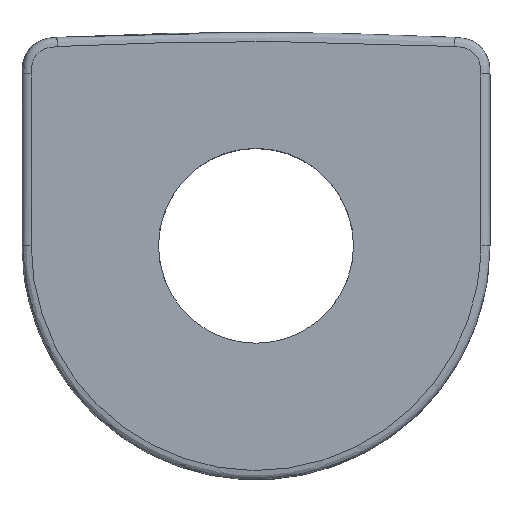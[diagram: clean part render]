
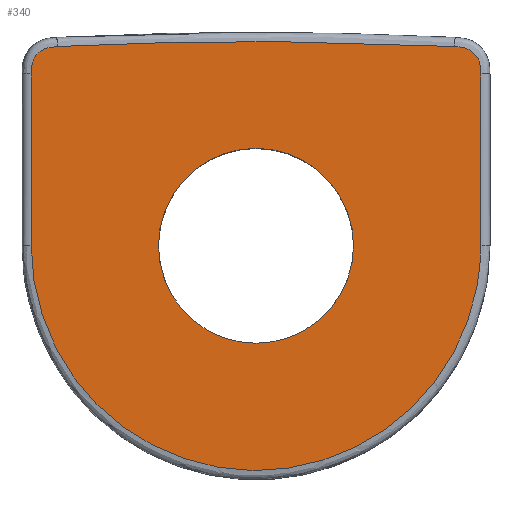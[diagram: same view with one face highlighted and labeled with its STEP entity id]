
A CAD part, top view. The second image highlights one B-rep face of the part: STEP entity #340.
In plain terms, the highlighted planar face has unit normal (0, 0, 1).
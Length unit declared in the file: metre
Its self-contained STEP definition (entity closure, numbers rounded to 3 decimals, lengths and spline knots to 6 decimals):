
#29=CIRCLE('',#379,0.002125);
#56=ORIENTED_EDGE('',*,*,#152,.T.);
#57=ORIENTED_EDGE('',*,*,#153,.T.);
#58=ORIENTED_EDGE('',*,*,#154,.T.);
#59=ORIENTED_EDGE('',*,*,#155,.T.);
#60=ORIENTED_EDGE('',*,*,#156,.T.);
#61=ORIENTED_EDGE('',*,*,#157,.T.);
#62=ORIENTED_EDGE('',*,*,#151,.F.);
#151=EDGE_CURVE('',#198,#198,#29,.T.);
#152=EDGE_CURVE('',#199,#200,#229,.T.);
#153=EDGE_CURVE('',#200,#201,#230,.T.);
#154=EDGE_CURVE('',#201,#202,#231,.T.);
#155=EDGE_CURVE('',#202,#203,#232,.T.);
#156=EDGE_CURVE('',#203,#204,#233,.T.);
#157=EDGE_CURVE('',#204,#199,#234,.T.);
#198=VERTEX_POINT('',#495);
#199=VERTEX_POINT('',#501);
#200=VERTEX_POINT('',#502);
#201=VERTEX_POINT('',#507);
#202=VERTEX_POINT('',#515);
#203=VERTEX_POINT('',#520);
#204=VERTEX_POINT('',#525);
#229=B_SPLINE_CURVE_WITH_KNOTS('',3,(#497,#498,#499,#500),.UNSPECIFIED.,.F.,.F.,(4,4),(0.,1.),.UNSPECIFIED.);
#230=B_SPLINE_CURVE_WITH_KNOTS('',3,(#503,#504,#505,#506),.UNSPECIFIED.,.F.,.F.,(4,4),(0.,1.),.UNSPECIFIED.);
#231=B_SPLINE_CURVE_WITH_KNOTS('',3,(#508,#509,#510,#511,#512,#513,#514),.UNSPECIFIED.,.F.,.F.,(4,1,1,1,4),(0.,0.25,0.5,0.75,1.),.UNSPECIFIED.);
#232=B_SPLINE_CURVE_WITH_KNOTS('',3,(#516,#517,#518,#519),.UNSPECIFIED.,.F.,.F.,(4,4),(0.,1.),.UNSPECIFIED.);
#233=B_SPLINE_CURVE_WITH_KNOTS('',3,(#521,#522,#523,#524),.UNSPECIFIED.,.F.,.F.,(4,4),(0.,1.),.UNSPECIFIED.);
#234=B_SPLINE_CURVE_WITH_KNOTS('',3,(#526,#527,#528,#529),.UNSPECIFIED.,.F.,.F.,(4,4),(0.,1.),.UNSPECIFIED.);
#268=EDGE_LOOP('',(#56,#57,#58,#59,#60,#61));
#269=EDGE_LOOP('',(#62));
#302=FACE_BOUND('',#268,.T.);
#303=FACE_BOUND('',#269,.T.);
#332=PLANE('',#380);
#340=ADVANCED_FACE('',(#302,#303),#332,.T.);
#379=AXIS2_PLACEMENT_3D('',#494,#398,#399);
#380=AXIS2_PLACEMENT_3D('',#496,#400,#401);
#398=DIRECTION('',(0.,0.,1.));
#399=DIRECTION('',(1.,0.,0.));
#400=DIRECTION('',(0.,0.,1.));
#401=DIRECTION('',(1.,0.,0.));
#494=CARTESIAN_POINT('',(0.,0.,0.001));
#495=CARTESIAN_POINT('',(0.002125,0.,0.001));
#496=CARTESIAN_POINT('',(0.,-0.000225,0.001));
#497=CARTESIAN_POINT('',(-0.00433,0.004343,0.001));
#498=CARTESIAN_POINT('',(-0.004727,0.004324,0.001));
#499=CARTESIAN_POINT('',(-0.0049,0.004148,0.001));
#500=CARTESIAN_POINT('',(-0.0049,0.003744,0.001));
#501=CARTESIAN_POINT('',(-0.00433,0.004343,0.001));
#502=CARTESIAN_POINT('',(-0.0049,0.003744,0.001));
#503=CARTESIAN_POINT('',(-0.0049,0.003744,0.001));
#504=CARTESIAN_POINT('',(-0.0049,0.002496,0.001));
#505=CARTESIAN_POINT('',(-0.0049,0.001248,0.001));
#506=CARTESIAN_POINT('',(-0.0049,0.,0.001));
#507=CARTESIAN_POINT('',(-0.0049,0.,0.001));
#508=CARTESIAN_POINT('',(-0.0049,0.,0.001));
#509=CARTESIAN_POINT('',(-0.0049,-0.001285,0.001));
#510=CARTESIAN_POINT('',(-0.00384,-0.003837,0.001));
#511=CARTESIAN_POINT('',(0.,-0.005432,0.001));
#512=CARTESIAN_POINT('',(0.00384,-0.003837,0.001));
#513=CARTESIAN_POINT('',(0.0049,-0.001286,0.001));
#514=CARTESIAN_POINT('',(0.0049,0.,0.001));
#515=CARTESIAN_POINT('',(0.0049,0.,0.001));
#516=CARTESIAN_POINT('',(0.0049,0.,0.001));
#517=CARTESIAN_POINT('',(0.0049,0.001248,0.001));
#518=CARTESIAN_POINT('',(0.0049,0.002496,0.001));
#519=CARTESIAN_POINT('',(0.0049,0.003744,0.001));
#520=CARTESIAN_POINT('',(0.0049,0.003744,0.001));
#521=CARTESIAN_POINT('',(0.0049,0.003744,0.001));
#522=CARTESIAN_POINT('',(0.0049,0.004142,0.001));
#523=CARTESIAN_POINT('',(0.004733,0.004323,0.001));
#524=CARTESIAN_POINT('',(0.00433,0.004343,0.001));
#525=CARTESIAN_POINT('',(0.00433,0.004343,0.001));
#526=CARTESIAN_POINT('',(0.00433,0.004343,0.001));
#527=CARTESIAN_POINT('',(0.001443,0.004486,0.001));
#528=CARTESIAN_POINT('',(-0.001443,0.004486,0.001));
#529=CARTESIAN_POINT('',(-0.00433,0.004343,0.001));
